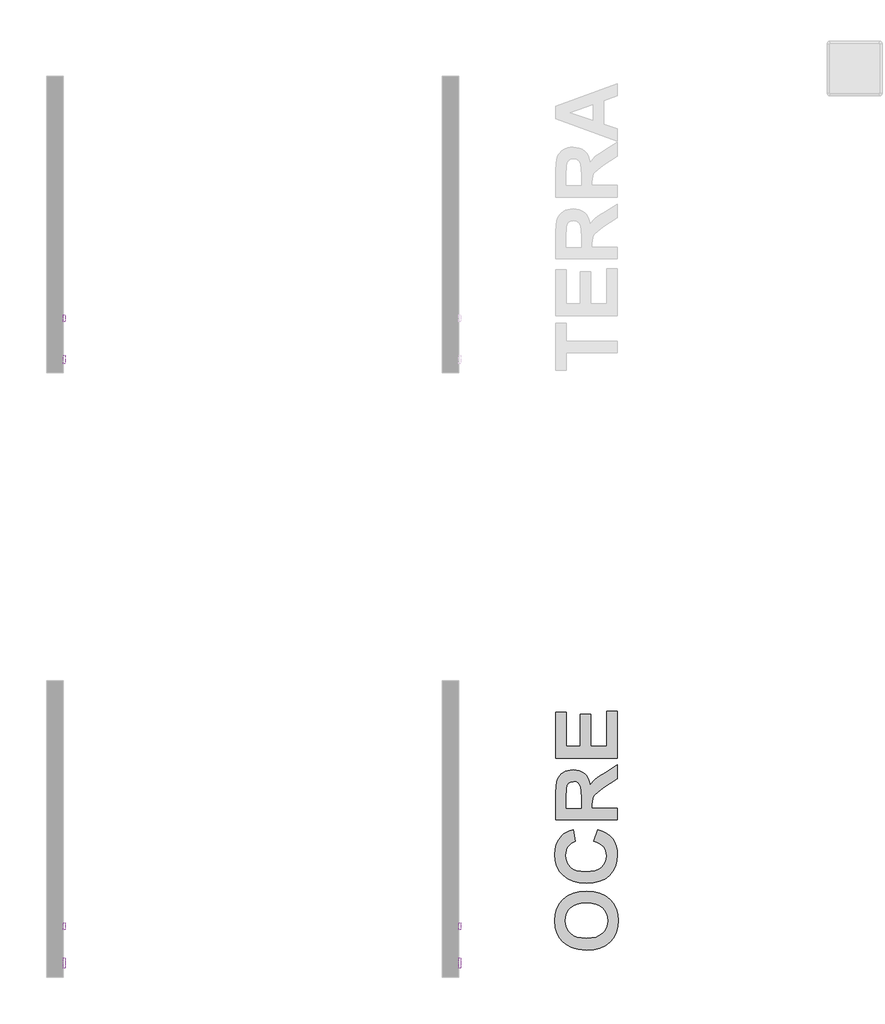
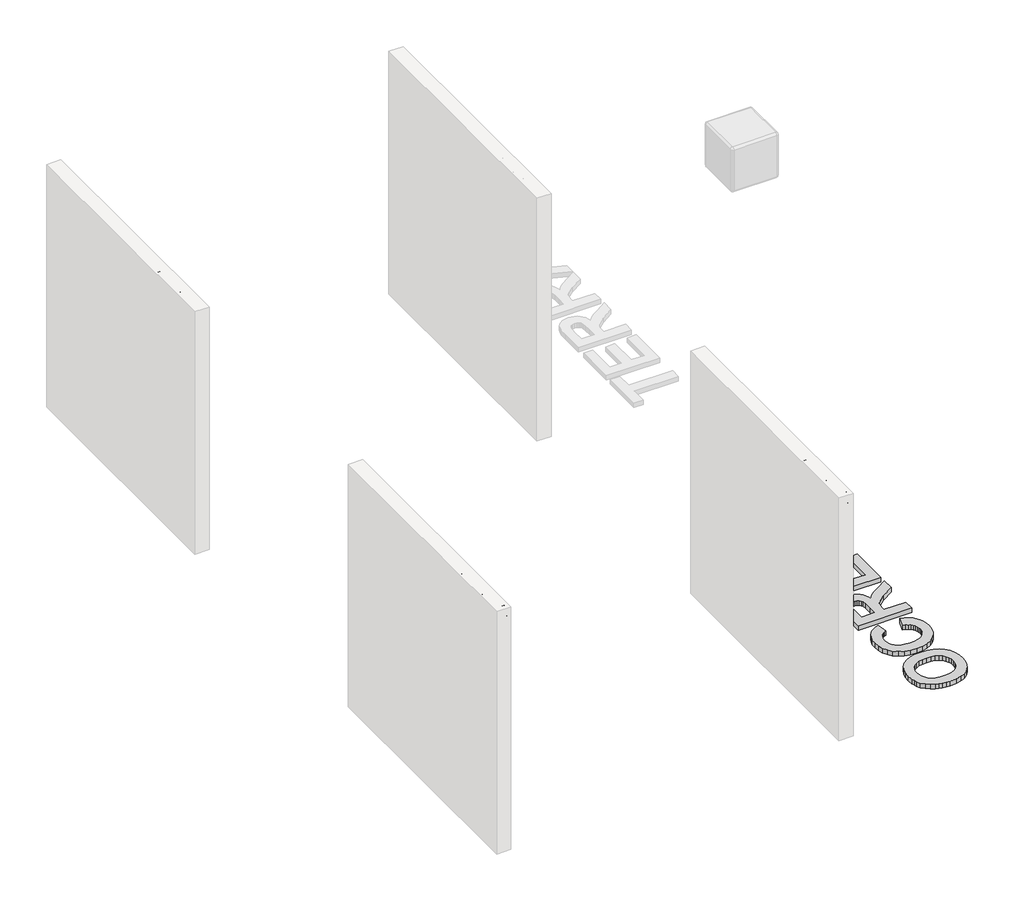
# One storey, part 5 of 6: 7 proxies.
"""IFC4 building model written with IfcOpenShell, lengths in millimetres."""

from ifc_helpers import new_model, si_unit, frame, origin, origin_with_axes, place, context, project, spatial, polyline, outline, extrude, element, save

model = new_model("IFC4")

# Units and contexts
model_context = context("Model", 3, world=origin())
ifc_project = project(units=[si_unit("LENGTHUNIT", "METRE", prefix="MILLI")], contexts=[model_context])

# Site, building, storey
site = spatial("IfcSite", under=ifc_project)
building = spatial("IfcBuilding", under=site)
storey = spatial("IfcBuildingStorey", under=building, Name="PORTOBELLO - SHOWROOM", Elevation=0.0)

# Proxies
placement = place(None, origin())
element("IfcBuildingElementProxy", 1, Name="10mm Arial", ObjectType="10mm Arial", at=placement, inside=storey, context=model_context, shape_type="SweptSolid", body=[
    extrude(outline(polyline([(1787.3485851, 2567.3783476), (1790.6963113, 2589.5922887), (1800.7394897, 2606.3983645), (1816.0740376, 2616.9749719), (1835.2958718, 2620.5005077), (1848.4721786, 2618.8450387), (1860.287322, 2613.8786317), (1870.0975085, 2605.9507747), (1877.2589447, 2595.4109556), (1881.6367405, 2582.7680777), (1883.0960057, 2568.5310445), (1881.5600984, 2554.1039389), (1876.9523764, 2541.2832514), (1869.5272915, 2530.7250381), (1859.5392953, 2523.0853553), (1847.8253194, 2518.4500422), (1835.2222954, 2516.9049378), (1821.8436535, 2518.6125234), (1809.9610651, 2523.7352802), (1800.175404, 2531.81029), (1793.0875442, 2542.3746346), (1787.3485851, 2567.3783476)]), holes=[polyline([(1799.9056239, 2567.2557202), (1802.4164185, 2551.5410277), (1809.9488023, 2539.5664687), (1821.2703707, 2531.9880996), (1835.148719, 2529.4619766), (1849.2294024, 2532.0126251), (1860.5693649, 2539.6645706), (1868.0465664, 2552.0070115), (1870.5389669, 2568.6291463), (1866.2715358, 2589.3531654), (1853.8003362, 2603.0751638), (1835.3694482, 2607.9434689), (1821.8620476, 2605.5982212), (1810.377998, 2598.562478), (1802.5237174, 2586.0452931), (1799.9056239, 2567.2557202)])]), frame((-22426.2609603, 0.0, 0.0), z_axis=(1.0, 0.0, 0.0), x_axis=(0.0, 1.0, 0.0)), (0.0, 0.0, 1.0), 20.0),
    extrude(outline(polyline([(1945.8811996, 2545.158275), (1958.4382383, 2543.5886452), (1954.937228, 2532.420361), (1948.3582717, 2523.9805349), (1939.3206373, 2518.6738371), (1928.443593, 2516.9049378), (1915.0864109, 2519.3728129), (1904.6416279, 2526.776438), (1897.9001903, 2538.7908508), (1895.6530445, 2555.0910889), (1899.49128, 2575.949998), (1911.1899274, 2589.3531654), (1928.2719147, 2593.8168003), (1938.8822446, 2592.2839586), (1947.3649903, 2587.6854337), (1953.4503716, 2580.2664801), (1956.8686085, 2570.2723526), (1944.3115697, 2568.7027227), (1938.4867714, 2578.1082391), (1928.3700166, 2581.2597615), (1920.2551529, 2579.7085258), (1913.8141523, 2575.0548185), (1909.6111005, 2567.0472538), (1908.2100832, 2555.4344454), (1909.5804437, 2543.6652873), (1913.691525, 2535.6301314), (1920.0160296, 2531.0040153), (1928.0266601, 2529.4619766), (1939.8601976, 2533.3124748), (1945.8811996, 2545.158275)])), frame((-22426.2609603, 0.0, 0.0), z_axis=(1.0, 0.0, 0.0), x_axis=(0.0, 1.0, 0.0)), (0.0, 0.0, 1.0), 20.0),
    extrude(outline(polyline([(1969.4256472, 2518.4745677), (1969.4256472, 2592.2471704), (1980.4130562, 2592.2471704), (1980.4130562, 2581.3333379), (1988.2121545, 2591.3887791), (1996.0603037, 2593.8168003), (2008.6663934, 2589.9417766), (2004.4725387, 2578.6845875), (1995.6433708, 2581.2597615), (1988.5432483, 2578.7826894), (1984.0182997, 2571.9155588), (1981.982686, 2557.24933), (1981.982686, 2518.4745677), (1969.4256472, 2518.4745677)])), frame((-22426.2609603, 0.0, 0.0), z_axis=(1.0, 0.0, 0.0), x_axis=(0.0, 1.0, 0.0)), (0.0, 0.0, 1.0), 20.0),
    extrude(outline(polyline([(2068.1651747, 2540.4493855), (2080.4769589, 2538.8797557), (2076.0409151, 2529.602998), (2068.9622524, 2522.6684224), (2059.4003862, 2518.345809), (2047.5147321, 2516.9049378), (2032.7810582, 2519.391207), (2021.4441614, 2526.8500144), (2014.2152802, 2538.7969822), (2011.8056531, 2554.7477324), (2014.2398056, 2571.2349771), (2021.5422632, 2583.5651553), (2032.7258759, 2591.253889), (2046.8034936, 2593.8168003), (2060.4427185, 2591.2600204), (2071.3412226, 2583.5896808), (2078.4873304, 2571.2840281), (2080.8693663, 2554.8213088), (2080.7957899, 2551.4367944), (2024.3626919, 2551.4367944), (2026.5362613, 2542.0374095), (2031.5854417, 2535.1273593), (2038.8725709, 2530.8783223), (2047.7599868, 2529.4619766), (2060.0717709, 2532.0862015), (2068.1651747, 2540.4493855)]), holes=[polyline([(2024.3626919, 2563.9938332), (2068.3123275, 2563.9938332), (2063.2846069, 2575.3736496), (2055.9637552, 2579.7882335), (2046.7544426, 2581.2597615), (2031.2911361, 2576.5631347), (2026.4258967, 2571.0724959), (2024.3626919, 2563.9938332)])]), frame((-22426.2609603, 0.0, 0.0), z_axis=(1.0, 0.0, 0.0), x_axis=(0.0, 1.0, 0.0)), (0.0, 0.0, 1.0), 20.0),
])
element("IfcBuildingElementProxy", 2, Name="10mm Arial", ObjectType="10mm Arial", at=placement, inside=storey, context=model_context, shape_type="SweptSolid", body=[
    extrude(outline(polyline([(7317.1715522, 2518.4745677), (7317.1715522, 2606.373839), (7284.2093254, 2606.373839), (7284.2093254, 2618.9308778), (7362.6908177, 2618.9308778), (7362.6908177, 2606.373839), (7329.7285909, 2606.373839), (7329.7285909, 2518.4745677), (7317.1715522, 2518.4745677)])), frame((-22426.2609603, 0.0, 0.0), z_axis=(1.0, 0.0, 0.0), x_axis=(0.0, 1.0, 0.0)), (0.0, 0.0, 1.0), 20.0),
    extrude(outline(polyline([(7426.8984886, 2540.4493855), (7439.2102727, 2538.8797557), (7434.774229, 2529.602998), (7427.6955663, 2522.6684224), (7418.1337001, 2518.345809), (7406.2480459, 2516.9049378), (7391.514372, 2519.391207), (7380.1774752, 2526.8500144), (7372.948594, 2538.7969822), (7370.5389669, 2554.7477324), (7372.9731195, 2571.2349771), (7380.2755771, 2583.5651553), (7391.4591897, 2591.253889), (7405.5368074, 2593.8168003), (7419.1760324, 2591.2600204), (7430.0745365, 2583.5896808), (7437.2206442, 2571.2840281), (7439.6026802, 2554.8213088), (7439.5291038, 2551.4367944), (7383.0960057, 2551.4367944), (7385.2695752, 2542.0374095), (7390.3187555, 2535.1273593), (7397.6058847, 2530.8783223), (7406.4933006, 2529.4619766), (7418.8050847, 2532.0862015), (7426.8984886, 2540.4493855)]), holes=[polyline([(7383.0960057, 2563.9938332), (7427.0456414, 2563.9938332), (7422.0179208, 2575.3736496), (7414.6970691, 2579.7882335), (7405.4877565, 2581.2597615), (7390.02445, 2576.5631347), (7385.1592106, 2571.0724959), (7383.0960057, 2563.9938332)])]), frame((-22426.2609603, 0.0, 0.0), z_axis=(1.0, 0.0, 0.0), x_axis=(0.0, 1.0, 0.0)), (0.0, 0.0, 1.0), 20.0),
    extrude(outline(polyline([(7452.1597189, 2518.4745677), (7452.1597189, 2592.2471704), (7463.1471279, 2592.2471704), (7463.1471279, 2581.3333379), (7470.9462262, 2591.3887791), (7478.7943754, 2593.8168003), (7491.4004651, 2589.9417766), (7487.2066103, 2578.6845875), (7478.3774425, 2581.2597615), (7471.27732, 2578.7826894), (7466.7523714, 2571.9155588), (7464.7167577, 2557.24933), (7464.7167577, 2518.4745677), (7452.1597189, 2518.4745677)])), frame((-22426.2609603, 0.0, 0.0), z_axis=(1.0, 0.0, 0.0), x_axis=(0.0, 1.0, 0.0)), (0.0, 0.0, 1.0), 20.0),
    extrude(outline(polyline([(7499.2486143, 2518.4745677), (7499.2486143, 2592.2471704), (7510.2360232, 2592.2471704), (7510.2360232, 2581.3333379), (7518.0351215, 2591.3887791), (7525.8832708, 2593.8168003), (7538.4893605, 2589.9417766), (7534.2955057, 2578.6845875), (7525.4663378, 2581.2597615), (7518.3662153, 2578.7826894), (7513.8412668, 2571.9155588), (7511.8056531, 2557.24933), (7511.8056531, 2518.4745677), (7499.2486143, 2518.4745677)])), frame((-22426.2609603, 0.0, 0.0), z_axis=(1.0, 0.0, 0.0), x_axis=(0.0, 1.0, 0.0)), (0.0, 0.0, 1.0), 20.0),
    extrude(outline(polyline([(7593.4264051, 2527.8923467), (7581.249511, 2519.3820099), (7567.7972928, 2516.9049378), (7557.3034588, 2518.3948599), (7549.5626085, 2522.8646261), (7544.7893396, 2529.6520489), (7543.19825, 2538.0949407), (7545.6017457, 2548.0277546), (7551.9170533, 2555.2382417), (7560.709433, 2559.3585201), (7571.5742146, 2561.246981), (7593.3528287, 2565.563463), (7593.4264051, 2568.3593662), (7589.9683143, 2577.6299925), (7576.0869004, 2581.2597615), (7563.3827088, 2578.8440031), (7557.3249186, 2570.2723526), (7544.7678799, 2571.8419824), (7550.2002707, 2584.1047156), (7561.1386286, 2591.2906772), (7577.7055812, 2593.8168003), (7592.923633, 2591.5849828), (7601.519809, 2585.9809138), (7605.3703072, 2577.4583142), (7605.9834439, 2566.4709053), (7605.9834439, 2550.8481832), (7606.621106, 2529.0327809), (7609.1227035, 2518.4745677), (7596.5656648, 2518.4745677), (7593.4264051, 2527.8923467)]), holes=[polyline([(7593.4264051, 2553.0064243), (7573.1683699, 2549.1559261), (7562.364902, 2547.1203124), (7557.4720714, 2543.8093744), (7555.7552888, 2538.9778575), (7559.4954224, 2532.1843033), (7570.4705686, 2529.4619766), (7583.1747602, 2532.4663462), (7591.3662659, 2539.738147), (7593.3528287, 2549.4502317), (7593.4264051, 2553.0064243)])]), frame((-22426.2609603, 0.0, 0.0), z_axis=(1.0, 0.0, 0.0), x_axis=(0.0, 1.0, 0.0)), (0.0, 0.0, 1.0), 20.0),
])
element("IfcBuildingElementProxy", 3, Name="10mm Arial", ObjectType="10mm Arial", at=placement, inside=storey, context=model_context, shape_type="SweptSolid", body=[
    extrude(outline(polyline([(1787.3485851, 2567.3783476), (1790.6963113, 2589.5922887), (1800.7394897, 2606.3983645), (1816.0740376, 2616.9749719), (1835.2958718, 2620.5005077), (1848.4721786, 2618.8450387), (1860.287322, 2613.8786317), (1870.0975085, 2605.9507747), (1877.2589447, 2595.4109556), (1881.6367405, 2582.7680777), (1883.0960057, 2568.5310445), (1881.5600984, 2554.1039389), (1876.9523764, 2541.2832514), (1869.5272915, 2530.7250381), (1859.5392953, 2523.0853553), (1847.8253194, 2518.4500422), (1835.2222954, 2516.9049378), (1821.8436535, 2518.6125234), (1809.9610651, 2523.7352802), (1800.175404, 2531.81029), (1793.0875442, 2542.3746346), (1787.3485851, 2567.3783476)]), holes=[polyline([(1799.9056239, 2567.2557202), (1802.4164185, 2551.5410277), (1809.9488023, 2539.5664687), (1821.2703707, 2531.9880996), (1835.148719, 2529.4619766), (1849.2294024, 2532.0126251), (1860.5693649, 2539.6645706), (1868.0465664, 2552.0070115), (1870.5389669, 2568.6291463), (1866.2715358, 2589.3531654), (1853.8003362, 2603.0751638), (1835.3694482, 2607.9434689), (1821.8620476, 2605.5982212), (1810.377998, 2598.562478), (1802.5237174, 2586.0452931), (1799.9056239, 2567.2557202)])]), frame((-18826.2609603, 0.0, 0.0), z_axis=(1.0, 0.0, 0.0), x_axis=(0.0, 1.0, 0.0)), (0.0, 0.0, 1.0), 20.0),
    extrude(outline(polyline([(1945.8811996, 2545.158275), (1958.4382383, 2543.5886452), (1954.937228, 2532.420361), (1948.3582717, 2523.9805349), (1939.3206373, 2518.6738371), (1928.443593, 2516.9049378), (1915.0864109, 2519.3728129), (1904.6416279, 2526.776438), (1897.9001903, 2538.7908508), (1895.6530445, 2555.0910889), (1899.49128, 2575.949998), (1911.1899274, 2589.3531654), (1928.2719147, 2593.8168003), (1938.8822446, 2592.2839586), (1947.3649903, 2587.6854337), (1953.4503716, 2580.2664801), (1956.8686085, 2570.2723526), (1944.3115697, 2568.7027227), (1938.4867714, 2578.1082391), (1928.3700166, 2581.2597615), (1920.2551529, 2579.7085258), (1913.8141523, 2575.0548185), (1909.6111005, 2567.0472538), (1908.2100832, 2555.4344454), (1909.5804437, 2543.6652873), (1913.691525, 2535.6301314), (1920.0160296, 2531.0040153), (1928.0266601, 2529.4619766), (1939.8601976, 2533.3124748), (1945.8811996, 2545.158275)])), frame((-18826.2609603, 0.0, 0.0), z_axis=(1.0, 0.0, 0.0), x_axis=(0.0, 1.0, 0.0)), (0.0, 0.0, 1.0), 20.0),
    extrude(outline(polyline([(1969.4256472, 2518.4745677), (1969.4256472, 2592.2471704), (1980.4130562, 2592.2471704), (1980.4130562, 2581.3333379), (1988.2121545, 2591.3887791), (1996.0603037, 2593.8168003), (2008.6663934, 2589.9417766), (2004.4725387, 2578.6845875), (1995.6433708, 2581.2597615), (1988.5432483, 2578.7826894), (1984.0182997, 2571.9155588), (1981.982686, 2557.24933), (1981.982686, 2518.4745677), (1969.4256472, 2518.4745677)])), frame((-18826.2609603, 0.0, 0.0), z_axis=(1.0, 0.0, 0.0), x_axis=(0.0, 1.0, 0.0)), (0.0, 0.0, 1.0), 20.0),
    extrude(outline(polyline([(2068.1651747, 2540.4493855), (2080.4769589, 2538.8797557), (2076.0409151, 2529.602998), (2068.9622524, 2522.6684224), (2059.4003862, 2518.345809), (2047.5147321, 2516.9049378), (2032.7810582, 2519.391207), (2021.4441614, 2526.8500144), (2014.2152802, 2538.7969822), (2011.8056531, 2554.7477324), (2014.2398056, 2571.2349771), (2021.5422632, 2583.5651553), (2032.7258759, 2591.253889), (2046.8034936, 2593.8168003), (2060.4427185, 2591.2600204), (2071.3412226, 2583.5896808), (2078.4873304, 2571.2840281), (2080.8693663, 2554.8213088), (2080.7957899, 2551.4367944), (2024.3626919, 2551.4367944), (2026.5362613, 2542.0374095), (2031.5854417, 2535.1273593), (2038.8725709, 2530.8783223), (2047.7599868, 2529.4619766), (2060.0717709, 2532.0862015), (2068.1651747, 2540.4493855)]), holes=[polyline([(2024.3626919, 2563.9938332), (2068.3123275, 2563.9938332), (2063.2846069, 2575.3736496), (2055.9637552, 2579.7882335), (2046.7544426, 2581.2597615), (2031.2911361, 2576.5631347), (2026.4258967, 2571.0724959), (2024.3626919, 2563.9938332)])]), frame((-18826.2609603, 0.0, 0.0), z_axis=(1.0, 0.0, 0.0), x_axis=(0.0, 1.0, 0.0)), (0.0, 0.0, 1.0), 20.0),
])
element("IfcBuildingElementProxy", 4, Name="10mm Arial Narrow", ObjectType="10mm Arial Narrow", at=placement, inside=storey, context=model_context, shape_type="SweptSolid", body=[
    extrude(outline(polyline([(2134.3713743, 2518.4745677), (2134.3713743, 2619.1931714), (2165.6682589, 2619.1931714), (2181.9639605, 2617.3148507), (2193.4369466, 2607.8344075), (2197.726625, 2590.8152987), (2195.9403166, 2578.7394731), (2190.5813914, 2569.1130794), (2180.8376026, 2562.811821), (2165.8967034, 2560.7114015), (2144.1183359, 2560.7114015), (2144.1183359, 2518.4745677), (2134.3713743, 2518.4745677)]), holes=[polyline([(2144.1183359, 2572.0828568), (2167.0896909, 2572.0828568), (2182.9538863, 2576.613671), (2187.9796634, 2590.2822617), (2185.5048489, 2600.4480381), (2179.52722, 2606.247988), (2166.8612464, 2607.8217162), (2144.1183359, 2607.8217162), (2144.1183359, 2572.0828568)])]), frame((-22426.2609603, 0.0, 0.0), z_axis=(1.0, 0.0, 0.0), x_axis=(0.0, 1.0, 0.0)), (0.0, 0.0, 1.0), 20.0),
    extrude(outline(polyline([(2205.8490931, 2555.0256739), (2207.8035619, 2571.6164494), (2213.6669685, 2583.5685342), (2222.5255353, 2590.7930888), (2233.4654844, 2593.2012737), (2244.27852, 2590.7930888), (2253.1624694, 2583.5685342), (2259.1020242, 2571.8068198), (2261.0818758, 2555.7871552), (2259.1369254, 2538.6252687), (2253.3020743, 2526.4828135), (2244.4530261, 2519.2582589), (2233.4654844, 2516.8500741), (2222.6048562, 2519.2646046), (2213.7304253, 2526.5081962), (2207.8194261, 2538.4666267), (2205.8490931, 2555.0256739)]), holes=[polyline([(2215.5960547, 2555.0510566), (2216.9000916, 2542.4993052), (2220.8122022, 2533.6280471), (2226.6533989, 2528.3547886), (2233.7446942, 2526.5970357), (2240.4647674, 2528.3706528), (2246.1568407, 2533.6915039), (2250.0403958, 2542.5786262), (2251.3349141, 2555.0510566), (2250.0308772, 2567.5647339), (2246.1187667, 2576.4233006), (2240.2775699, 2581.6965592), (2233.1862746, 2583.454312), (2226.4186088, 2581.6870407), (2220.736054, 2576.3852265), (2216.8810545, 2567.5171413), (2215.5960547, 2555.0510566)])]), frame((-22426.2609603, 0.0, 0.0), z_axis=(1.0, 0.0, 0.0), x_axis=(0.0, 1.0, 0.0)), (0.0, 0.0, 1.0), 20.0),
    extrude(outline(polyline([(2332.5595946, 2526.5970357), (2334.1840882, 2516.8500741), (2326.8231015, 2516.8500741), (2318.5483372, 2518.9695306), (2314.233276, 2524.7694804), (2313.0656712, 2539.4153056), (2313.0656712, 2581.8298184), (2304.9432032, 2581.8298184), (2304.9432032, 2585.0788056), (2303.3187096, 2580.2053248), (2295.7546612, 2581.8298184), (2289.6755015, 2579.5073002), (2285.8046379, 2573.0220171), (2283.8247863, 2557.6147106), (2283.8247863, 2518.4745677), (2274.0778246, 2518.4745677), (2274.0778246, 2591.5767801), (2283.8247863, 2591.5767801), (2283.8247863, 2581.8805838), (2290.0689336, 2590.967595), (2296.4653772, 2593.2012737), (2304.9432032, 2591.5767801), (2313.0656712, 2591.5767801), (2313.0656712, 2607.8217162), (2322.8126329, 2615.9441842), (2322.8126329, 2591.5767801), (2332.5595946, 2591.5767801), (2332.5595946, 2581.8298184), (2322.8126329, 2581.8298184), (2322.8126329, 2537.1816269), (2323.6756451, 2529.1860724), (2328.2952988, 2526.5970357), (2332.5595946, 2526.5970357)])), frame((-22426.2609603, 0.0, 0.0), z_axis=(1.0, 0.0, 0.0), x_axis=(0.0, 1.0, 0.0)), (0.0, 0.0, 1.0), 20.0),
    extrude(outline(polyline([(2339.057569, 2555.0256739), (2341.0120379, 2571.6164494), (2346.8754445, 2583.5685342), (2355.7340112, 2590.7930888), (2366.6739603, 2593.2012737), (2377.4869959, 2590.7930888), (2386.3709453, 2583.5685342), (2392.3105001, 2571.8068198), (2394.2903517, 2555.7871552), (2392.3454013, 2538.6252687), (2386.5105503, 2526.4828135), (2377.6615021, 2519.2582589), (2366.6739603, 2516.8500741), (2355.8133322, 2519.2646046), (2346.9389013, 2526.5081962), (2341.0279021, 2538.4666267), (2339.057569, 2555.0256739)]), holes=[polyline([(2348.8045306, 2555.0510566), (2350.1085675, 2542.4993052), (2354.0206781, 2533.6280471), (2359.8618748, 2528.3547886), (2366.9531702, 2526.5970357), (2373.6732433, 2528.3706528), (2379.3653167, 2533.6915039), (2383.2488717, 2542.5786262), (2384.54339, 2555.0510566), (2383.2393532, 2567.5647339), (2379.3272426, 2576.4233006), (2373.4860458, 2581.6965592), (2366.3947505, 2583.454312), (2359.6270847, 2581.6870407), (2353.94453, 2576.3852265), (2350.0895305, 2567.5171413), (2348.8045306, 2555.0510566)])]), frame((-22426.2609603, 0.0, 0.0), z_axis=(1.0, 0.0, 0.0), x_axis=(0.0, 1.0, 0.0)), (0.0, 0.0, 1.0), 20.0),
    extrude(outline(polyline([(2417.0332622, 2518.4745677), (2407.2863006, 2518.4745677), (2407.2863006, 2619.1931714), (2417.0332622, 2619.1931714), (2417.0332622, 2583.7842873), (2424.4323229, 2590.8660641), (2433.6335563, 2593.2012737), (2446.5152829, 2589.0004347), (2455.7926644, 2576.2710043), (2459.270096, 2555.5840935), (2457.337837, 2539.1297501), (2451.54106, 2526.927011), (2443.1679377, 2519.3693083), (2433.5066427, 2516.8500741), (2424.1658045, 2519.4644935), (2417.0332622, 2527.2316035), (2417.0332622, 2518.4745677)]), holes=[polyline([(2417.0332622, 2555.5840935), (2419.1146447, 2538.3365403), (2425.003434, 2529.6048872), (2433.4558773, 2526.5970357), (2439.3986049, 2528.3865169), (2444.6369622, 2533.7549607), (2449.5231344, 2555.1779701), (2444.8146412, 2576.613671), (2439.5699382, 2581.7441518), (2433.2528156, 2583.454312), (2427.2751868, 2581.6648308), (2421.9828912, 2576.2963871), (2417.0332622, 2555.5840935)])]), frame((-22426.2609603, 0.0, 0.0), z_axis=(1.0, 0.0, 0.0), x_axis=(0.0, 1.0, 0.0)), (0.0, 0.0, 1.0), 20.0),
    extrude(outline(polyline([(2511.2538915, 2541.2174782), (2521.0008532, 2539.5929846), (2517.3013228, 2529.706418), (2511.4823359, 2522.5865671), (2503.7786827, 2518.2841973), (2494.4251531, 2516.8500741), (2482.8315991, 2519.2646046), (2473.6874768, 2526.5081962), (2467.7479221, 2538.3143304), (2465.7680705, 2554.4164888), (2467.7574406, 2571.0834124), (2473.7255509, 2583.2639417), (2482.7395867, 2590.7169407), (2493.8667334, 2593.2012737), (2504.5496826, 2590.8026073), (2513.2971999, 2583.6066083), (2519.132051, 2571.8671037), (2521.0770013, 2555.8379207), (2521.0008532, 2552.5889335), (2475.5150321, 2552.5889335), (2481.5180437, 2533.1457756), (2487.4480799, 2528.2342207), (2494.5520666, 2526.5970357), (2504.7305344, 2530.2521463), (2511.2538915, 2541.2174782)]), holes=[polyline([(2476.1749827, 2562.3358951), (2511.2538915, 2562.3358951), (2506.9895958, 2576.6009796), (2501.1642633, 2581.7409789), (2493.9428815, 2583.454312), (2481.7337967, 2577.7432017), (2476.1749827, 2562.3358951)])]), frame((-22426.2609603, 0.0, 0.0), z_axis=(1.0, 0.0, 0.0), x_axis=(0.0, 1.0, 0.0)), (0.0, 0.0, 1.0), 20.0),
    extrude(outline(polyline([(-22406.2609603, 2543.7437637), (-22406.2609603, 2533.9968021), (-22426.2609603, 2533.9968021), (-22426.2609603, 2543.7437637), (-22406.2609603, 2543.7437637)])), frame((0.0, 0.0, 2518.4745677), z_axis=(0.0, 0.0, 1.0), x_axis=(1.0, 0.0, 0.0)), (0.0, 0.0, 1.0), 100.7186038),
    extrude(outline(polyline([(-22406.2609603, 2569.7356615), (-22406.2609603, 2559.9886998), (-22426.2609603, 2559.9886998), (-22426.2609603, 2569.7356615), (-22406.2609603, 2569.7356615)])), frame((0.0, 0.0, 2518.4745677), z_axis=(0.0, 0.0, 1.0), x_axis=(1.0, 0.0, 0.0)), (0.0, 0.0, 1.0), 100.7186038),
    extrude(outline(polyline([(2581.1071167, 2555.0256739), (2583.0615856, 2571.6164494), (2588.9249922, 2583.5685342), (2597.7835589, 2590.7930888), (2608.7235081, 2593.2012737), (2619.5365437, 2590.7930888), (2628.4204931, 2583.5685342), (2634.3600478, 2571.8068198), (2636.3398994, 2555.7871552), (2634.3949491, 2538.6252687), (2628.560098, 2526.4828135), (2619.7110498, 2519.2582589), (2608.7235081, 2516.8500741), (2597.8628799, 2519.2646046), (2588.988449, 2526.5081962), (2583.0774498, 2538.4666267), (2581.1071167, 2555.0256739)]), holes=[polyline([(2590.8540784, 2555.0510566), (2592.1581152, 2542.4993052), (2596.0702258, 2533.6280471), (2601.9114226, 2528.3547886), (2609.0027179, 2526.5970357), (2615.7227911, 2528.3706528), (2621.4148644, 2533.6915039), (2625.2984194, 2542.5786262), (2626.5929378, 2555.0510566), (2625.2889009, 2567.5647339), (2621.3767903, 2576.4233006), (2615.5355936, 2581.6965592), (2608.4442982, 2583.454312), (2601.6766325, 2581.6870407), (2595.9940777, 2576.3852265), (2592.1390782, 2567.5171413), (2590.8540784, 2555.0510566)])]), frame((-22426.2609603, 0.0, 0.0), z_axis=(1.0, 0.0, 0.0), x_axis=(0.0, 1.0, 0.0)), (0.0, 0.0, 1.0), 20.0),
])
element("IfcBuildingElementProxy", 5, Name="10mm Arial Narrow", ObjectType="10mm Arial Narrow", at=placement, inside=storey, context=model_context, shape_type="SweptSolid", body=[
    extrude(outline(polyline([(7669.3713743, 2518.4745677), (7669.3713743, 2619.1931714), (7700.6682589, 2619.1931714), (7716.9639605, 2617.3148507), (7728.4369466, 2607.8344075), (7732.726625, 2590.8152987), (7730.9403166, 2578.7394731), (7725.5813914, 2569.1130794), (7715.8376026, 2562.811821), (7700.8967034, 2560.7114015), (7679.1183359, 2560.7114015), (7679.1183359, 2518.4745677), (7669.3713743, 2518.4745677)]), holes=[polyline([(7679.1183359, 2572.0828568), (7702.0896909, 2572.0828568), (7717.9538863, 2576.613671), (7722.9796634, 2590.2822617), (7720.5048489, 2600.4480381), (7714.52722, 2606.247988), (7701.8612464, 2607.8217162), (7679.1183359, 2607.8217162), (7679.1183359, 2572.0828568)])]), frame((-22426.2609603, 0.0, 0.0), z_axis=(1.0, 0.0, 0.0), x_axis=(0.0, 1.0, 0.0)), (0.0, 0.0, 1.0), 20.0),
    extrude(outline(polyline([(7740.8490931, 2555.0256739), (7742.8035619, 2571.6164494), (7748.6669685, 2583.5685342), (7757.5255353, 2590.7930888), (7768.4654844, 2593.2012737), (7779.27852, 2590.7930888), (7788.1624694, 2583.5685342), (7794.1020242, 2571.8068198), (7796.0818758, 2555.7871552), (7794.1369254, 2538.6252687), (7788.3020743, 2526.4828135), (7779.4530261, 2519.2582589), (7768.4654844, 2516.8500741), (7757.6048562, 2519.2646046), (7748.7304253, 2526.5081962), (7742.8194261, 2538.4666267), (7740.8490931, 2555.0256739)]), holes=[polyline([(7750.5960547, 2555.0510566), (7751.9000916, 2542.4993052), (7755.8122022, 2533.6280471), (7761.6533989, 2528.3547886), (7768.7446942, 2526.5970357), (7775.4647674, 2528.3706528), (7781.1568407, 2533.6915039), (7785.0403958, 2542.5786262), (7786.3349141, 2555.0510566), (7785.0308772, 2567.5647339), (7781.1187667, 2576.4233006), (7775.2775699, 2581.6965592), (7768.1862746, 2583.454312), (7761.4186088, 2581.6870407), (7755.736054, 2576.3852265), (7751.8810545, 2567.5171413), (7750.5960547, 2555.0510566)])]), frame((-22426.2609603, 0.0, 0.0), z_axis=(1.0, 0.0, 0.0), x_axis=(0.0, 1.0, 0.0)), (0.0, 0.0, 1.0), 20.0),
    extrude(outline(polyline([(7867.5595946, 2526.5970357), (7869.1840882, 2516.8500741), (7861.8231015, 2516.8500741), (7853.5483372, 2518.9695306), (7849.233276, 2524.7694804), (7848.0656712, 2539.4153056), (7848.0656712, 2581.8298184), (7839.9432032, 2581.8298184), (7839.9432032, 2585.0788056), (7838.3187096, 2580.2053248), (7830.7546612, 2581.8298184), (7824.6755015, 2579.5073002), (7820.8046379, 2573.0220171), (7818.8247863, 2557.6147106), (7818.8247863, 2518.4745677), (7809.0778246, 2518.4745677), (7809.0778246, 2591.5767801), (7818.8247863, 2591.5767801), (7818.8247863, 2581.8805838), (7825.0689336, 2590.967595), (7831.4653772, 2593.2012737), (7839.9432032, 2591.5767801), (7848.0656712, 2591.5767801), (7848.0656712, 2607.8217162), (7857.8126329, 2615.9441842), (7857.8126329, 2591.5767801), (7867.5595946, 2591.5767801), (7867.5595946, 2581.8298184), (7857.8126329, 2581.8298184), (7857.8126329, 2537.1816269), (7858.6756451, 2529.1860724), (7863.2952988, 2526.5970357), (7867.5595946, 2526.5970357)])), frame((-22426.2609603, 0.0, 0.0), z_axis=(1.0, 0.0, 0.0), x_axis=(0.0, 1.0, 0.0)), (0.0, 0.0, 1.0), 20.0),
    extrude(outline(polyline([(7874.057569, 2555.0256739), (7876.0120379, 2571.6164494), (7881.8754445, 2583.5685342), (7890.7340112, 2590.7930888), (7901.6739603, 2593.2012737), (7912.4869959, 2590.7930888), (7921.3709453, 2583.5685342), (7927.3105001, 2571.8068198), (7929.2903517, 2555.7871552), (7927.3454013, 2538.6252687), (7921.5105503, 2526.4828135), (7912.6615021, 2519.2582589), (7901.6739603, 2516.8500741), (7890.8133322, 2519.2646046), (7881.9389013, 2526.5081962), (7876.0279021, 2538.4666267), (7874.057569, 2555.0256739)]), holes=[polyline([(7883.8045306, 2555.0510566), (7885.1085675, 2542.4993052), (7889.0206781, 2533.6280471), (7894.8618748, 2528.3547886), (7901.9531702, 2526.5970357), (7908.6732433, 2528.3706528), (7914.3653167, 2533.6915039), (7918.2488717, 2542.5786262), (7919.54339, 2555.0510566), (7918.2393532, 2567.5647339), (7914.3272426, 2576.4233006), (7908.4860458, 2581.6965592), (7901.3947505, 2583.454312), (7894.6270847, 2581.6870407), (7888.94453, 2576.3852265), (7885.0895305, 2567.5171413), (7883.8045306, 2555.0510566)])]), frame((-22426.2609603, 0.0, 0.0), z_axis=(1.0, 0.0, 0.0), x_axis=(0.0, 1.0, 0.0)), (0.0, 0.0, 1.0), 20.0),
    extrude(outline(polyline([(7952.0332622, 2518.4745677), (7942.2863006, 2518.4745677), (7942.2863006, 2619.1931714), (7952.0332622, 2619.1931714), (7952.0332622, 2583.7842873), (7959.4323229, 2590.8660641), (7968.6335563, 2593.2012737), (7981.5152829, 2589.0004347), (7990.7926644, 2576.2710043), (7994.270096, 2555.5840935), (7992.337837, 2539.1297501), (7986.54106, 2526.927011), (7978.1679377, 2519.3693083), (7968.5066427, 2516.8500741), (7959.1658045, 2519.4644935), (7952.0332622, 2527.2316035), (7952.0332622, 2518.4745677)]), holes=[polyline([(7952.0332622, 2555.5840935), (7954.1146447, 2538.3365403), (7960.003434, 2529.6048872), (7968.4558773, 2526.5970357), (7974.3986049, 2528.3865169), (7979.6369622, 2533.7549607), (7984.5231344, 2555.1779701), (7979.8146412, 2576.613671), (7974.5699382, 2581.7441518), (7968.2528156, 2583.454312), (7962.2751868, 2581.6648308), (7956.9828912, 2576.2963871), (7952.0332622, 2555.5840935)])]), frame((-22426.2609603, 0.0, 0.0), z_axis=(1.0, 0.0, 0.0), x_axis=(0.0, 1.0, 0.0)), (0.0, 0.0, 1.0), 20.0),
    extrude(outline(polyline([(8046.2538915, 2541.2174782), (8056.0008532, 2539.5929846), (8052.3013228, 2529.706418), (8046.4823359, 2522.5865671), (8038.7786827, 2518.2841973), (8029.4251531, 2516.8500741), (8017.8315991, 2519.2646046), (8008.6874768, 2526.5081962), (8002.7479221, 2538.3143304), (8000.7680705, 2554.4164888), (8002.7574406, 2571.0834124), (8008.7255509, 2583.2639417), (8017.7395867, 2590.7169407), (8028.8667334, 2593.2012737), (8039.5496826, 2590.8026073), (8048.2971999, 2583.6066083), (8054.132051, 2571.8671037), (8056.0770013, 2555.8379207), (8056.0008532, 2552.5889335), (8010.5150321, 2552.5889335), (8016.5180437, 2533.1457756), (8022.4480799, 2528.2342207), (8029.5520666, 2526.5970357), (8039.7305344, 2530.2521463), (8046.2538915, 2541.2174782)]), holes=[polyline([(8011.1749827, 2562.3358951), (8046.2538915, 2562.3358951), (8041.9895958, 2576.6009796), (8036.1642633, 2581.7409789), (8028.9428815, 2583.454312), (8016.7337967, 2577.7432017), (8011.1749827, 2562.3358951)])]), frame((-22426.2609603, 0.0, 0.0), z_axis=(1.0, 0.0, 0.0), x_axis=(0.0, 1.0, 0.0)), (0.0, 0.0, 1.0), 20.0),
    extrude(outline(polyline([(-22406.2609603, 8078.7437637), (-22406.2609603, 8068.9968021), (-22426.2609603, 8068.9968021), (-22426.2609603, 8078.7437637), (-22406.2609603, 8078.7437637)])), frame((0.0, 0.0, 2518.4745677), z_axis=(0.0, 0.0, 1.0), x_axis=(1.0, 0.0, 0.0)), (0.0, 0.0, 1.0), 100.7186038),
    extrude(outline(polyline([(-22406.2609603, 8104.7356615), (-22406.2609603, 8094.9886998), (-22426.2609603, 8094.9886998), (-22426.2609603, 8104.7356615), (-22406.2609603, 8104.7356615)])), frame((0.0, 0.0, 2518.4745677), z_axis=(0.0, 0.0, 1.0), x_axis=(1.0, 0.0, 0.0)), (0.0, 0.0, 1.0), 100.7186038),
    extrude(outline(polyline([(8116.1071167, 2555.0256739), (8118.0615856, 2571.6164494), (8123.9249922, 2583.5685342), (8132.7835589, 2590.7930888), (8143.7235081, 2593.2012737), (8154.5365437, 2590.7930888), (8163.4204931, 2583.5685342), (8169.3600478, 2571.8068198), (8171.3398994, 2555.7871552), (8169.3949491, 2538.6252687), (8163.560098, 2526.4828135), (8154.7110498, 2519.2582589), (8143.7235081, 2516.8500741), (8132.8628799, 2519.2646046), (8123.988449, 2526.5081962), (8118.0774498, 2538.4666267), (8116.1071167, 2555.0256739)]), holes=[polyline([(8125.8540784, 2555.0510566), (8127.1581152, 2542.4993052), (8131.0702258, 2533.6280471), (8136.9114226, 2528.3547886), (8144.0027179, 2526.5970357), (8150.7227911, 2528.3706528), (8156.4148644, 2533.6915039), (8160.2984194, 2542.5786262), (8161.5929378, 2555.0510566), (8160.2889009, 2567.5647339), (8156.3767903, 2576.4233006), (8150.5355936, 2581.6965592), (8143.4442982, 2583.454312), (8136.6766325, 2581.6870407), (8130.9940777, 2576.3852265), (8127.1390782, 2567.5171413), (8125.8540784, 2555.0510566)])]), frame((-22426.2609603, 0.0, 0.0), z_axis=(1.0, 0.0, 0.0), x_axis=(0.0, 1.0, 0.0)), (0.0, 0.0, 1.0), 20.0),
])
element("IfcBuildingElementProxy", 6, Name="10mm Arial Narrow", ObjectType="10mm Arial Narrow", at=placement, inside=storey, context=model_context, shape_type="SweptSolid", body=[
    extrude(outline(polyline([(2134.3713743, 2518.4745677), (2134.3713743, 2619.1931714), (2165.6682589, 2619.1931714), (2181.9639605, 2617.3148507), (2193.4369466, 2607.8344075), (2197.726625, 2590.8152987), (2195.9403166, 2578.7394731), (2190.5813914, 2569.1130794), (2180.8376026, 2562.811821), (2165.8967034, 2560.7114015), (2144.1183359, 2560.7114015), (2144.1183359, 2518.4745677), (2134.3713743, 2518.4745677)]), holes=[polyline([(2144.1183359, 2572.0828568), (2167.0896909, 2572.0828568), (2182.9538863, 2576.613671), (2187.9796634, 2590.2822617), (2185.5048489, 2600.4480381), (2179.52722, 2606.247988), (2166.8612464, 2607.8217162), (2144.1183359, 2607.8217162), (2144.1183359, 2572.0828568)])]), frame((-18826.2609603, 0.0, 0.0), z_axis=(1.0, 0.0, 0.0), x_axis=(0.0, 1.0, 0.0)), (0.0, 0.0, 1.0), 20.0),
    extrude(outline(polyline([(2205.8490931, 2555.0256739), (2207.8035619, 2571.6164494), (2213.6669685, 2583.5685342), (2222.5255353, 2590.7930888), (2233.4654844, 2593.2012737), (2244.27852, 2590.7930888), (2253.1624694, 2583.5685342), (2259.1020242, 2571.8068198), (2261.0818758, 2555.7871552), (2259.1369254, 2538.6252687), (2253.3020743, 2526.4828135), (2244.4530261, 2519.2582589), (2233.4654844, 2516.8500741), (2222.6048562, 2519.2646046), (2213.7304253, 2526.5081962), (2207.8194261, 2538.4666267), (2205.8490931, 2555.0256739)]), holes=[polyline([(2215.5960547, 2555.0510566), (2216.9000916, 2542.4993052), (2220.8122022, 2533.6280471), (2226.6533989, 2528.3547886), (2233.7446942, 2526.5970357), (2240.4647674, 2528.3706528), (2246.1568407, 2533.6915039), (2250.0403958, 2542.5786262), (2251.3349141, 2555.0510566), (2250.0308772, 2567.5647339), (2246.1187667, 2576.4233006), (2240.2775699, 2581.6965592), (2233.1862746, 2583.454312), (2226.4186088, 2581.6870407), (2220.736054, 2576.3852265), (2216.8810545, 2567.5171413), (2215.5960547, 2555.0510566)])]), frame((-18826.2609603, 0.0, 0.0), z_axis=(1.0, 0.0, 0.0), x_axis=(0.0, 1.0, 0.0)), (0.0, 0.0, 1.0), 20.0),
    extrude(outline(polyline([(2332.5595946, 2526.5970357), (2334.1840882, 2516.8500741), (2326.8231015, 2516.8500741), (2318.5483372, 2518.9695306), (2314.233276, 2524.7694804), (2313.0656712, 2539.4153056), (2313.0656712, 2581.8298184), (2304.9432032, 2581.8298184), (2304.9432032, 2585.0788056), (2303.3187096, 2580.2053248), (2295.7546612, 2581.8298184), (2289.6755015, 2579.5073002), (2285.8046379, 2573.0220171), (2283.8247863, 2557.6147106), (2283.8247863, 2518.4745677), (2274.0778246, 2518.4745677), (2274.0778246, 2591.5767801), (2283.8247863, 2591.5767801), (2283.8247863, 2581.8805838), (2290.0689336, 2590.967595), (2296.4653772, 2593.2012737), (2304.9432032, 2591.5767801), (2313.0656712, 2591.5767801), (2313.0656712, 2607.8217162), (2322.8126329, 2615.9441842), (2322.8126329, 2591.5767801), (2332.5595946, 2591.5767801), (2332.5595946, 2581.8298184), (2322.8126329, 2581.8298184), (2322.8126329, 2537.1816269), (2323.6756451, 2529.1860724), (2328.2952988, 2526.5970357), (2332.5595946, 2526.5970357)])), frame((-18826.2609603, 0.0, 0.0), z_axis=(1.0, 0.0, 0.0), x_axis=(0.0, 1.0, 0.0)), (0.0, 0.0, 1.0), 20.0),
    extrude(outline(polyline([(2339.057569, 2555.0256739), (2341.0120379, 2571.6164494), (2346.8754445, 2583.5685342), (2355.7340112, 2590.7930888), (2366.6739603, 2593.2012737), (2377.4869959, 2590.7930888), (2386.3709453, 2583.5685342), (2392.3105001, 2571.8068198), (2394.2903517, 2555.7871552), (2392.3454013, 2538.6252687), (2386.5105503, 2526.4828135), (2377.6615021, 2519.2582589), (2366.6739603, 2516.8500741), (2355.8133322, 2519.2646046), (2346.9389013, 2526.5081962), (2341.0279021, 2538.4666267), (2339.057569, 2555.0256739)]), holes=[polyline([(2348.8045306, 2555.0510566), (2350.1085675, 2542.4993052), (2354.0206781, 2533.6280471), (2359.8618748, 2528.3547886), (2366.9531702, 2526.5970357), (2373.6732433, 2528.3706528), (2379.3653167, 2533.6915039), (2383.2488717, 2542.5786262), (2384.54339, 2555.0510566), (2383.2393532, 2567.5647339), (2379.3272426, 2576.4233006), (2373.4860458, 2581.6965592), (2366.3947505, 2583.454312), (2359.6270847, 2581.6870407), (2353.94453, 2576.3852265), (2350.0895305, 2567.5171413), (2348.8045306, 2555.0510566)])]), frame((-18826.2609603, 0.0, 0.0), z_axis=(1.0, 0.0, 0.0), x_axis=(0.0, 1.0, 0.0)), (0.0, 0.0, 1.0), 20.0),
    extrude(outline(polyline([(2417.0332622, 2518.4745677), (2407.2863006, 2518.4745677), (2407.2863006, 2619.1931714), (2417.0332622, 2619.1931714), (2417.0332622, 2583.7842873), (2424.4323229, 2590.8660641), (2433.6335563, 2593.2012737), (2446.5152829, 2589.0004347), (2455.7926644, 2576.2710043), (2459.270096, 2555.5840935), (2457.337837, 2539.1297501), (2451.54106, 2526.927011), (2443.1679377, 2519.3693083), (2433.5066427, 2516.8500741), (2424.1658045, 2519.4644935), (2417.0332622, 2527.2316035), (2417.0332622, 2518.4745677)]), holes=[polyline([(2417.0332622, 2555.5840935), (2419.1146447, 2538.3365403), (2425.003434, 2529.6048872), (2433.4558773, 2526.5970357), (2439.3986049, 2528.3865169), (2444.6369622, 2533.7549607), (2449.5231344, 2555.1779701), (2444.8146412, 2576.613671), (2439.5699382, 2581.7441518), (2433.2528156, 2583.454312), (2427.2751868, 2581.6648308), (2421.9828912, 2576.2963871), (2417.0332622, 2555.5840935)])]), frame((-18826.2609603, 0.0, 0.0), z_axis=(1.0, 0.0, 0.0), x_axis=(0.0, 1.0, 0.0)), (0.0, 0.0, 1.0), 20.0),
    extrude(outline(polyline([(2511.2538915, 2541.2174782), (2521.0008532, 2539.5929846), (2517.3013228, 2529.706418), (2511.4823359, 2522.5865671), (2503.7786827, 2518.2841973), (2494.4251531, 2516.8500741), (2482.8315991, 2519.2646046), (2473.6874768, 2526.5081962), (2467.7479221, 2538.3143304), (2465.7680705, 2554.4164888), (2467.7574406, 2571.0834124), (2473.7255509, 2583.2639417), (2482.7395867, 2590.7169407), (2493.8667334, 2593.2012737), (2504.5496826, 2590.8026073), (2513.2971999, 2583.6066083), (2519.132051, 2571.8671037), (2521.0770013, 2555.8379207), (2521.0008532, 2552.5889335), (2475.5150321, 2552.5889335), (2481.5180437, 2533.1457756), (2487.4480799, 2528.2342207), (2494.5520666, 2526.5970357), (2504.7305344, 2530.2521463), (2511.2538915, 2541.2174782)]), holes=[polyline([(2476.1749827, 2562.3358951), (2511.2538915, 2562.3358951), (2506.9895958, 2576.6009796), (2501.1642633, 2581.7409789), (2493.9428815, 2583.454312), (2481.7337967, 2577.7432017), (2476.1749827, 2562.3358951)])]), frame((-18826.2609603, 0.0, 0.0), z_axis=(1.0, 0.0, 0.0), x_axis=(0.0, 1.0, 0.0)), (0.0, 0.0, 1.0), 20.0),
    extrude(outline(polyline([(-18806.2609603, 2543.7437637), (-18806.2609603, 2533.9968021), (-18826.2609603, 2533.9968021), (-18826.2609603, 2543.7437637), (-18806.2609603, 2543.7437637)])), frame((0.0, 0.0, 2518.4745677), z_axis=(0.0, 0.0, 1.0), x_axis=(1.0, 0.0, 0.0)), (0.0, 0.0, 1.0), 100.7186038),
    extrude(outline(polyline([(-18806.2609603, 2569.7356615), (-18806.2609603, 2559.9886998), (-18826.2609603, 2559.9886998), (-18826.2609603, 2569.7356615), (-18806.2609603, 2569.7356615)])), frame((0.0, 0.0, 2518.4745677), z_axis=(0.0, 0.0, 1.0), x_axis=(1.0, 0.0, 0.0)), (0.0, 0.0, 1.0), 100.7186038),
    extrude(outline(polyline([(2581.1071167, 2555.0256739), (2583.0615856, 2571.6164494), (2588.9249922, 2583.5685342), (2597.7835589, 2590.7930888), (2608.7235081, 2593.2012737), (2619.5365437, 2590.7930888), (2628.4204931, 2583.5685342), (2634.3600478, 2571.8068198), (2636.3398994, 2555.7871552), (2634.3949491, 2538.6252687), (2628.560098, 2526.4828135), (2619.7110498, 2519.2582589), (2608.7235081, 2516.8500741), (2597.8628799, 2519.2646046), (2588.988449, 2526.5081962), (2583.0774498, 2538.4666267), (2581.1071167, 2555.0256739)]), holes=[polyline([(2590.8540784, 2555.0510566), (2592.1581152, 2542.4993052), (2596.0702258, 2533.6280471), (2601.9114226, 2528.3547886), (2609.0027179, 2526.5970357), (2615.7227911, 2528.3706528), (2621.4148644, 2533.6915039), (2625.2984194, 2542.5786262), (2626.5929378, 2555.0510566), (2625.2889009, 2567.5647339), (2621.3767903, 2576.4233006), (2615.5355936, 2581.6965592), (2608.4442982, 2583.454312), (2601.6766325, 2581.6870407), (2595.9940777, 2576.3852265), (2592.1390782, 2567.5171413), (2590.8540784, 2555.0510566)])]), frame((-18826.2609603, 0.0, 0.0), z_axis=(1.0, 0.0, 0.0), x_axis=(0.0, 1.0, 0.0)), (0.0, 0.0, 1.0), 20.0),
])
element("IfcBuildingElementProxy", 7, Name="550mm Arial", ObjectType="550mm Arial", at=placement, inside=storey, context=model_context, shape_type="SweptSolid", body=[
    extrude(outline(polyline([(-17660.4934925, 1951.8237763), (-17701.5667144, 1953.3981628), (-17739.1954221, 1958.1213224), (-17773.3796156, 1965.993255), (-17804.119295, 1977.0139606), (-17844.6706207, 1999.2293373), (-17880.8728124, 2028.2989492), (-17910.4991135, 2062.3439705), (-17931.3227673, 2099.4855751), (-17941.0039396, 2126.2240512), (-17947.9190628, 2154.9457324), (-17953.4511613, 2218.3387101), (-17948.6540664, 2276.1821928), (-17934.2627819, 2327.9368878), (-17910.2773077, 2373.6027952), (-17876.6976438, 2413.1799149), (-17834.5762806, 2445.1460501), (-17784.9657087, 2467.9790038), (-17727.8659279, 2481.678776), (-17663.2769383, 2486.2453668), (-17599.1272113, 2481.7135691), (-17542.3710121, 2468.1181761), (-17493.0083408, 2445.4591878), (-17451.0391973, 2413.7366041), (-17417.5508652, 2374.4204324), (-17393.630628, 2328.98068), (-17379.2784857, 2277.4173468), (-17374.4944383, 2219.730433), (-17379.25674, 2161.4346403), (-17393.5436453, 2109.4363938), (-17417.3551542, 2063.7356933), (-17450.6912666, 2024.332539), (-17492.3777163, 1992.6099553), (-17541.2402372, 1969.950967), (-17597.2788293, 1956.355574), (-17660.4934925, 1951.8237763)]), holes=[polyline([(-17664.3903166, 2058.7080944), (-17620.0030546, 2061.5480789), (-17581.3392531, 2070.0680325), (-17548.3989119, 2084.2679551), (-17521.1820311, 2104.1478468), (-17499.8712743, 2128.4029673), (-17484.6493051, 2155.7285765), (-17475.5161237, 2186.1246743), (-17472.4717298, 2219.5912607), (-17475.494378, 2253.023054), (-17484.5623225, 2283.3147726), (-17499.6755632, 2310.4664164), (-17520.8341003, 2334.4779854), (-17548.0379337, 2354.1143256), (-17581.2870634, 2368.1402829), (-17620.5814895, 2376.5558572), (-17665.9212118, 2379.3610487), (-17710.6303097, 2376.6297925), (-17749.285413, 2368.436024), (-17781.8865218, 2354.7797431), (-17808.4336359, 2335.6609499), (-17829.0137382, 2312.0190572), (-17843.7138112, 2284.7934782), (-17852.5338551, 2253.9842127), (-17855.4738697, 2219.5912607), (-17852.499062, 2185.1635157), (-17843.5746389, 2154.2498709), (-17828.7006005, 2126.8503265), (-17807.8769468, 2102.9648824), (-17781.0601863, 2083.6025376), (-17748.2068278, 2069.7722914), (-17709.3168712, 2061.4741436), (-17664.3903166, 2058.7080944)])]), origin_with_axes(), (0.0, 0.0, 1.0), 50.0),
    extrude(outline(polyline([(-17597.170101, 2940.5037186), (-17561.5419949, 3047.3880367), (-17519.2814595, 3032.6270758), (-17482.8226689, 3013.6735497), (-17452.165623, 2990.5274583), (-17427.310322, 2963.1888018), (-17408.100197, 2931.7706575), (-17394.3786791, 2896.386103), (-17386.1457683, 2857.0351382), (-17383.4014648, 2813.7177632), (-17388.0898313, 2760.1973197), (-17402.1549307, 2711.6696822), (-17425.5967632, 2668.1348505), (-17458.4153286, 2629.5928246), (-17499.3667747, 2598.0529046), (-17547.2072491, 2575.5243903), (-17601.9367519, 2562.0072817), (-17663.5552829, 2557.5015788), (-17728.5313454, 2562.0464239), (-17785.8181389, 2575.6809591), (-17835.4156635, 2598.4051844), (-17877.3239191, 2630.2190999), (-17910.6295875, 2669.4439398), (-17934.4193507, 2714.4009383), (-17948.6932086, 2765.0900955), (-17953.4511613, 2821.5114114), (-17949.5282424, 2870.8479879), (-17937.7594856, 2915.3135343), (-17918.1448911, 2954.9080506), (-17890.6844588, 2989.6315367), (-17870.1478479, 3007.6978395), (-17845.5578441, 3023.3460238), (-17816.9144473, 3036.5760895), (-17784.2176576, 3047.3880367), (-17766.4036046, 2940.5037186), (-17785.9790569, 2933.76691), (-17803.3712439, 2924.1335781), (-17818.5801656, 2911.603723), (-17831.6058221, 2896.1773445), (-17842.0480929, 2878.3937355), (-17849.5068578, 2858.7921884), (-17853.9821167, 2837.3727032), (-17855.4738697, 2814.1352801), (-17852.7643592, 2782.3735542), (-17844.6358277, 2753.7519031), (-17831.0882751, 2728.2703268), (-17812.1217016, 2705.9288252), (-17787.0924352, 2687.7537941), (-17755.3568041, 2674.771629), (-17716.9148084, 2666.9823299), (-17671.766448, 2664.3858969), (-17623.9781632, 2666.9040455), (-17583.6008028, 2674.4584913), (-17550.6343668, 2687.0492344), (-17525.0788552, 2704.6762746), (-17505.9600619, 2726.3393113), (-17492.3037811, 2751.0380435), (-17484.1100125, 2778.7724712), (-17481.3787564, 2809.5425945), (-17483.1227591, 2832.4494835), (-17488.3547673, 2853.7123998), (-17497.0747811, 2873.3313434), (-17509.2828003, 2891.3063144), (-17525.2397731, 2907.2458907), (-17545.2066475, 2920.7586501), (-17569.1834234, 2931.8445928), (-17597.170101, 2940.5037186)])), origin_with_axes(), (0.0, 0.0, 1.0), 50.0),
    extrude(outline(polyline([(-17383.4014648, 3136.4583018), (-17944.5441347, 3136.4583018), (-17944.5441347, 3372.4945043), (-17940.7516899, 3449.387194), (-17929.3743552, 3501.9247332), (-17920.3107599, 3521.095716), (-17908.2897534, 3538.2487007), (-17893.3113358, 3553.3836871), (-17875.375507, 3566.5006754), (-17855.256413, 3577.0951659), (-17833.7281995, 3584.6626591), (-17810.7908666, 3589.2031551), (-17786.4444142, 3590.7166537), (-17756.0961569, 3588.5290393), (-17728.5139489, 3581.966196), (-17703.6977901, 3571.0281239), (-17681.6476805, 3555.714823), (-17662.8942145, 3536.0436897), (-17647.9679865, 3512.0321207), (-17636.8689964, 3483.6801159), (-17629.5972443, 3450.9876754), (-17607.2600919, 3481.9883028), (-17582.8353552, 3507.0741079), (-17547.4508006, 3533.0297398), (-17492.2341949, 3566.6398477), (-17383.4014648, 3635.2517862), (-17383.4014648, 3510.4142428), (-17511.5791431, 3429.137626), (-17587.6367991, 3365.3271314), (-17600.8407701, 3347.6174576), (-17609.1389178, 3328.8639916), (-17613.5228449, 3303.9695484), (-17614.984154, 3267.8369428), (-17614.984154, 3243.3426199), (-17383.4014648, 3243.3426199), (-17383.4014648, 3136.4583018)]), holes=[polyline([(-17712.9614455, 3243.3426199), (-17712.9614455, 3331.438679), (-17714.5793234, 3400.9726339), (-17719.432957, 3438.3925832), (-17728.2356043, 3457.4243937), (-17741.7005233, 3471.7939326), (-17759.4623867, 3480.8227349), (-17781.1558672, 3483.8323356), (-17805.1804837, 3479.8659254), (-17824.0905185, 3467.9666946), (-17837.4336617, 3448.8305049), (-17844.7576034, 3423.1532175), (-17846.5668432, 3336.3097091), (-17846.5668432, 3243.3426199), (-17712.9614455, 3243.3426199)])]), origin_with_axes(), (0.0, 0.0, 1.0), 50.0),
    extrude(outline(polyline([(-17383.4014648, 3697.6009718), (-17944.5441347, 3697.6009718), (-17944.5441347, 4116.2312176), (-17846.5668432, 4116.2312176), (-17846.5668432, 3804.4852899), (-17721.8684721, 3804.4852899), (-17721.8684721, 4098.4171646), (-17623.8911805, 4098.4171646), (-17623.8911805, 3804.4852899), (-17481.3787564, 3804.4852899), (-17481.3787564, 4125.1382442), (-17383.4014648, 4125.1382442), (-17383.4014648, 3697.6009718)])), origin_with_axes(), (0.0, 0.0, 1.0), 50.0),
])

save(model, "model.ifc")
